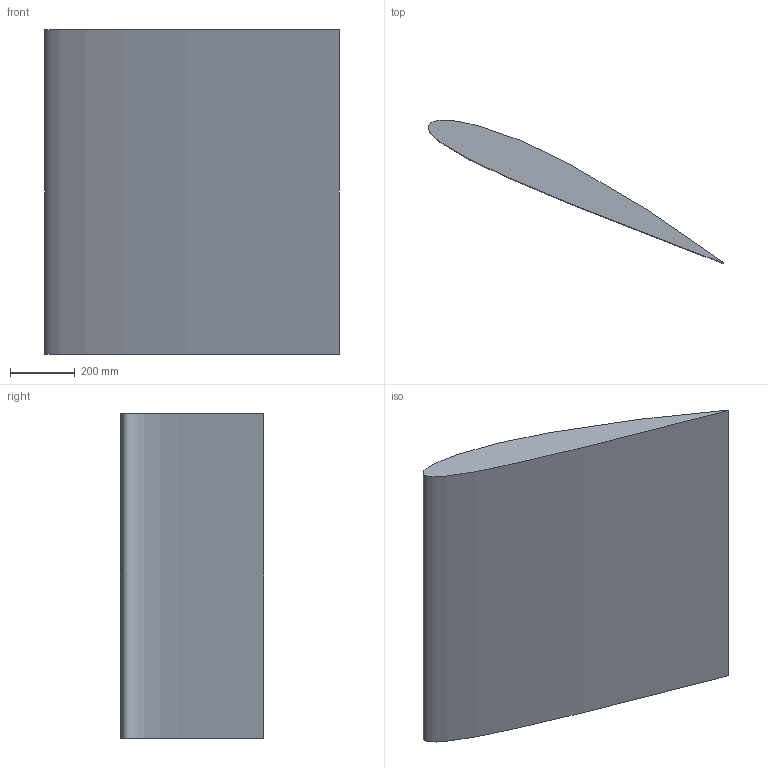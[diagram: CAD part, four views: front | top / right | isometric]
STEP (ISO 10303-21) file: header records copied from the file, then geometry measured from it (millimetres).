
FILE_DESCRIPTION (( 'STEP AP203' ), '1' );
FILE_NAME ('NACA 25.STEP', '2018-12-17T05:52:50', ( '' ), ( '' ), 'SwSTEP 2.0', 'SolidWorks 2017', '' );
FILE_SCHEMA (( 'CONFIG_CONTROL_DESIGN' ));
Length unit declared in the file: millimetre
Products named in the file (1): NACA 25
Bounding box: 907.76 x 440.56 x 1000 mm (x, y, z)
Volume: 62736725.3 mm3; surface area: 2211023.9 mm2
Topology: 1 solids, 1 shells, 4 faces, 6 edges, 4 vertices
Faces by surface type: plane 3, bspline 1
Entity records: 489 total; most frequent: CARTESIAN_POINT 344, ORIENTED_EDGE 12, DIRECTION 12, PERSON_AND_ORGANIZATION 8, EDGE_CURVE 6, CC_DESIGN_PERSON_AND_ORGANIZATION_ASSIGNMENT 5, DATE_AND_TIME 5, LOCAL_TIME 5
